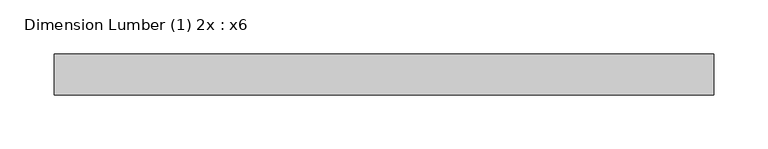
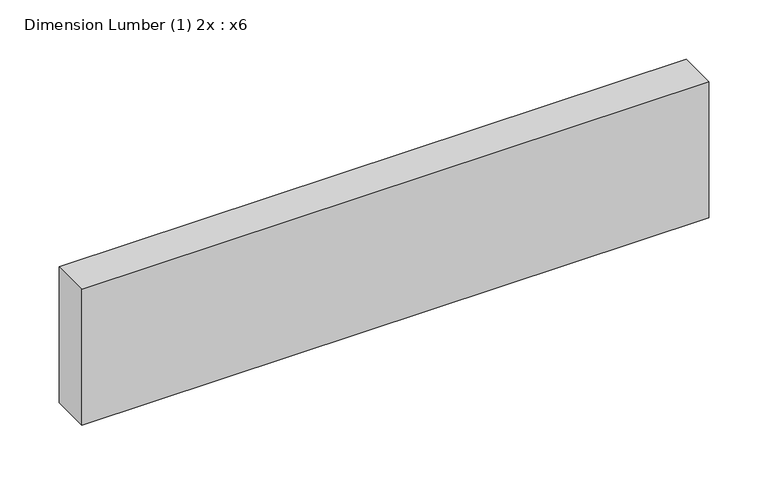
"""IFC4 building model written with IfcOpenShell, lengths in millimetres: beam geometry, Dimension Lumber (1) 2x : x6."""

from ifc_helpers import new_model, si_unit, frame, origin, place, context, project, spatial, polyline, outline, extrude, source, transform, mapped, element, save


def dimension_lumber_1_2x_x6_1f1d5409(model_context):
    return source(origin(), model_context, "Body", "SweptSolid", [
        extrude(outline(polyline([(304.8, 19.05), (304.8, -19.05), (-304.8, -19.05), (-304.8, 19.05), (304.8, 19.05)])), frame((0.0, 0.0, -69.85), z_axis=(0.0, 0.0, 1.0), x_axis=(1.0, 0.0, 0.0)), (0.0, 0.0, 1.0), 139.7),
    ])


if __name__ == "__main__":
    model = new_model("IFC4")
    model_context = context("Model", 3, world=origin())
    ifc_project = project(units=[si_unit("LENGTHUNIT", "METRE", prefix="MILLI")], contexts=[model_context])
    site = spatial("IfcSite", under=ifc_project)
    building = spatial("IfcBuilding", under=site)
    placement = place(None, origin())
    dimension_lumber_1_2x_x6_shape = dimension_lumber_1_2x_x6_1f1d5409(model_context)
    element("IfcBeam", 1, ObjectType="Dimension Lumber (1) 2x : x6", at=placement, inside=building, context=model_context, shape_type="MappedRepresentation", body=[
        mapped(dimension_lumber_1_2x_x6_shape, transform((0.0, 0.0, 0.0), x_axis=(1.0, 0.0, 0.0), y_axis=(0.0, 1.0, 0.0), z_axis=(0.0, 0.0, 1.0))),
    ])
    save(model, "model.ifc")
